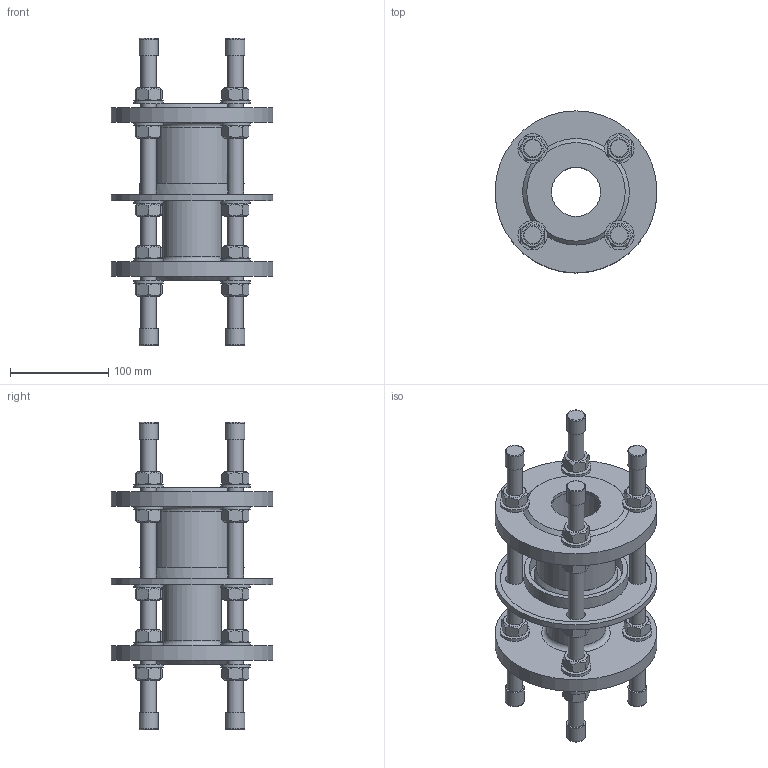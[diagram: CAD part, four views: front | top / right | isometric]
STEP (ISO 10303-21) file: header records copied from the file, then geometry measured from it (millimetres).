
FILE_DESCRIPTION(('STEP AP242'), '1');
FILE_NAME('Ìîíòàæíàÿ âñòàâêà', '', ('UNSPECIFIED'), ('UNSPECIFIED'), 'C3D Converter', 'C3D Toolkit', '');
FILE_SCHEMA(('AP242_MANAGED_MODEL_BASED_3D_ENGINEERING_MIM_LF { 1 0 10303 442 1 1 4 }'));
Length unit declared in the file: millimetre
Products named in the file (9): ШМ.М16.310
Assembly tree (56 placements, depth 2):
  (unnamed)
    (unnamed)
    (unnamed)
    (unnamed)
    (unnamed)
    (unnamed)  x20
    (unnamed)  x20
    ШМ.М16.310  x4
    (unnamed)  x8
Bounding box: 165 x 165 x 313.2 mm (x, y, z)
Volume: 1314799.7 mm3; surface area: 390904.2 mm2
Topology: 56 solids, 56 shells, 511 faces, 1092 edges, 706 vertices
Faces by surface type: plane 280, cylinder 116, cone 94, extrusion 11, torus 10
Full cylindrical faces by diameter (mm): 11.421 x1, 16 x32, 17 x20, 19 x12, 19.2 x8, 30 x20, 50 x2, 60 x2, 65 x2, 80 x1, 85 x1, 96 x1, 106 x1, 154.5 x1, 165 x3
Entity records: 9730 total; most frequent: CARTESIAN_POINT 4853, DIRECTION 680, ORIENTED_EDGE 520, AXIS2_PLACEMENT_3D 306, EDGE_CURVE 260, EDGE_LOOP 225, VERTEX_POINT 201, FACE_BOUND 144
